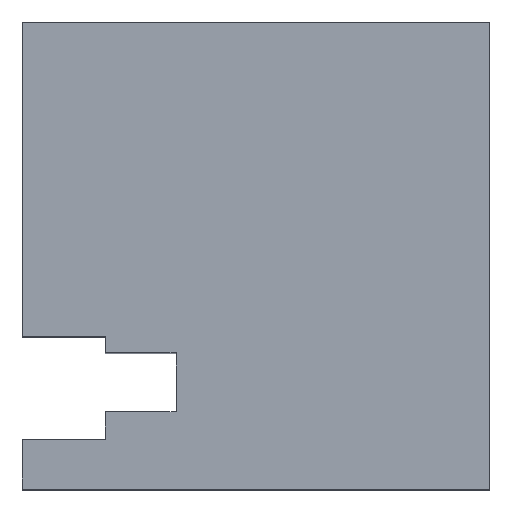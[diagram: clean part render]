
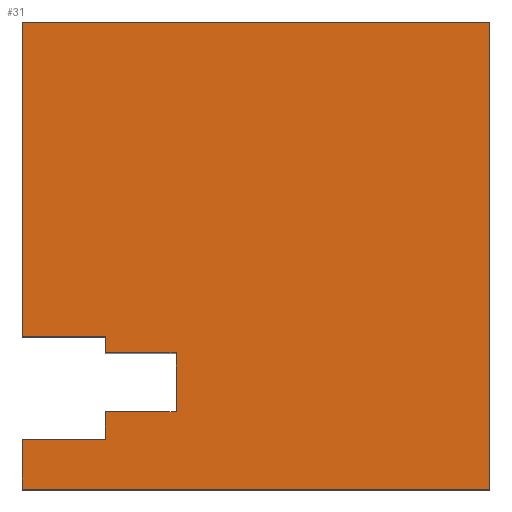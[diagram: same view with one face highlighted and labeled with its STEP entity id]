
A CAD part, top view. The second image highlights one B-rep face of the part: STEP entity #31.
In plain terms, the highlighted planar face has unit normal (0, 0, 1).
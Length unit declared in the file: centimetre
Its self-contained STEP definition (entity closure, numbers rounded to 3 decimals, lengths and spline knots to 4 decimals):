
#16 = EDGE_CURVE ( 'NONE', #490, #727, #268, .T. ) ;
#24 = DIRECTION ( 'NONE',  ( -1., 0., 0. ) ) ;
#28 = EDGE_CURVE ( 'NONE', #727, #1300, #873, .T. ) ;
#31 = ADVANCED_FACE ( 'NONE', ( #1323 ), #1114, .T. ) ;
#37 = CARTESIAN_POINT ( 'NONE',  ( 0., 327.4516, 1000. ) ) ;
#48 = EDGE_CURVE ( 'NONE', #1080, #490, #984, .T. ) ;
#49 = ORIENTED_EDGE ( 'NONE', *, *, #757, .F. ) ;
#51 = ORIENTED_EDGE ( 'NONE', *, *, #1046, .T. ) ;
#54 = ORIENTED_EDGE ( 'NONE', *, *, #16, .F. ) ;
#59 = EDGE_CURVE ( 'NONE', #668, #637, #329, .T. ) ;
#64 = EDGE_CURVE ( 'NONE', #1300, #1029, #636, .T. ) ;
#85 = VECTOR ( 'NONE', #698, 100. ) ;
#96 = ORIENTED_EDGE ( 'NONE', *, *, #59, .T. ) ;
#103 = ORIENTED_EDGE ( 'NONE', *, *, #1238, .T. ) ;
#120 = VECTOR ( 'NONE', #428, 100. ) ;
#133 = CARTESIAN_POINT ( 'NONE',  ( 0., 106.7798, 1000. ) ) ;
#155 = VECTOR ( 'NONE', #1413, 100. ) ;
#168 = EDGE_CURVE ( 'NONE', #637, #297, #1142, .T. ) ;
#182 = DIRECTION ( 'NONE',  ( 0., 1., 0. ) ) ;
#186 = VECTOR ( 'NONE', #1439, 100. ) ;
#200 = LINE ( 'NONE', #644, #186 ) ;
#204 = CARTESIAN_POINT ( 'NONE',  ( 177.7232, 291.9087, 1000. ) ) ;
#210 = DIRECTION ( 'NONE',  ( 0., 0., 1. ) ) ;
#218 = ORIENTED_EDGE ( 'NONE', *, *, #707, .F. ) ;
#229 = CARTESIAN_POINT ( 'NONE',  ( 0., 106.7798, 1000. ) ) ;
#251 = LINE ( 'NONE', #1038, #85 ) ;
#268 = LINE ( 'NONE', #509, #120 ) ;
#291 = VECTOR ( 'NONE', #384, 100. ) ;
#297 = VERTEX_POINT ( 'NONE', #1067 ) ;
#319 = ORIENTED_EDGE ( 'NONE', *, *, #520, .T. ) ;
#320 = CARTESIAN_POINT ( 'NONE',  ( 1000., 0., 1000. ) ) ;
#329 = LINE ( 'NONE', #1447, #1432 ) ;
#357 = CARTESIAN_POINT ( 'NONE',  ( 0., 1000., 1000. ) ) ;
#366 = CARTESIAN_POINT ( 'NONE',  ( 177.7232, 106.7798, 1000. ) ) ;
#384 = DIRECTION ( 'NONE',  ( 0., -1., 0. ) ) ;
#393 = VECTOR ( 'NONE', #539, 100. ) ;
#409 = ORIENTED_EDGE ( 'NONE', *, *, #64, .F. ) ;
#414 = DIRECTION ( 'NONE',  ( 1., 0., 0. ) ) ;
#428 = DIRECTION ( 'NONE',  ( 0., 1., 0. ) ) ;
#445 = CARTESIAN_POINT ( 'NONE',  ( 0., 0., 1000. ) ) ;
#456 = LINE ( 'NONE', #37, #903 ) ;
#471 = DIRECTION ( 'NONE',  ( 0., -1., 0. ) ) ;
#490 = VERTEX_POINT ( 'NONE', #1313 ) ;
#494 = LINE ( 'NONE', #937, #291 ) ;
#509 = CARTESIAN_POINT ( 'NONE',  ( 328.8597, 165.9159, 1000. ) ) ;
#518 = CARTESIAN_POINT ( 'NONE',  ( 328.8597, 291.9087, 1000. ) ) ;
#520 = EDGE_CURVE ( 'NONE', #850, #863, #200, .T. ) ;
#539 = DIRECTION ( 'NONE',  ( -1., 0., 0. ) ) ;
#547 = DIRECTION ( 'NONE',  ( 1., 0., 0. ) ) ;
#589 = ORIENTED_EDGE ( 'NONE', *, *, #48, .F. ) ;
#636 = LINE ( 'NONE', #1084, #1003 ) ;
#637 = VERTEX_POINT ( 'NONE', #911 ) ;
#640 = ORIENTED_EDGE ( 'NONE', *, *, #1429, .F. ) ;
#644 = CARTESIAN_POINT ( 'NONE',  ( 0., 0., 1000. ) ) ;
#662 = ORIENTED_EDGE ( 'NONE', *, *, #168, .T. ) ;
#668 = VERTEX_POINT ( 'NONE', #1364 ) ;
#698 = DIRECTION ( 'NONE',  ( 0., 1., 0. ) ) ;
#707 = EDGE_CURVE ( 'NONE', #1095, #1049, #1240, .T. ) ;
#727 = VERTEX_POINT ( 'NONE', #518 ) ;
#757 = EDGE_CURVE ( 'NONE', #1049, #1080, #1088, .T. ) ;
#759 = DIRECTION ( 'NONE',  ( 0., 1., 0. ) ) ;
#767 = CARTESIAN_POINT ( 'NONE',  ( 0., 0., 1000. ) ) ;
#850 = VERTEX_POINT ( 'NONE', #445 ) ;
#863 = VERTEX_POINT ( 'NONE', #320 ) ;
#873 = LINE ( 'NONE', #1218, #393 ) ;
#883 = DIRECTION ( 'NONE',  ( -1., 0., 0. ) ) ;
#903 = VECTOR ( 'NONE', #24, 100. ) ;
#911 = CARTESIAN_POINT ( 'NONE',  ( 0., 1000., 1000. ) ) ;
#937 = CARTESIAN_POINT ( 'NONE',  ( 0., 1000., 1000. ) ) ;
#970 = VECTOR ( 'NONE', #182, 100. ) ;
#984 = LINE ( 'NONE', #1440, #1408 ) ;
#1003 = VECTOR ( 'NONE', #759, 100. ) ;
#1029 = VERTEX_POINT ( 'NONE', #1250 ) ;
#1038 = CARTESIAN_POINT ( 'NONE',  ( 1000., 1000., 1000. ) ) ;
#1046 = EDGE_CURVE ( 'NONE', #863, #668, #251, .T. ) ;
#1049 = VERTEX_POINT ( 'NONE', #366 ) ;
#1067 = CARTESIAN_POINT ( 'NONE',  ( 0., 327.4516, 1000. ) ) ;
#1079 = ORIENTED_EDGE ( 'NONE', *, *, #28, .F. ) ;
#1080 = VERTEX_POINT ( 'NONE', #1275 ) ;
#1084 = CARTESIAN_POINT ( 'NONE',  ( 177.7232, 106.7798, 1000. ) ) ;
#1088 = LINE ( 'NONE', #1189, #970 ) ;
#1095 = VERTEX_POINT ( 'NONE', #133 ) ;
#1114 = PLANE ( 'NONE',  #1193 ) ;
#1127 = VECTOR ( 'NONE', #471, 100. ) ;
#1142 = LINE ( 'NONE', #357, #1127 ) ;
#1189 = CARTESIAN_POINT ( 'NONE',  ( 177.7232, 106.7798, 1000. ) ) ;
#1193 = AXIS2_PLACEMENT_3D ( 'NONE', #767, #210, #414 ) ;
#1218 = CARTESIAN_POINT ( 'NONE',  ( 172.5147, 291.9087, 1000. ) ) ;
#1238 = EDGE_CURVE ( 'NONE', #1095, #850, #494, .T. ) ;
#1240 = LINE ( 'NONE', #229, #155 ) ;
#1250 = CARTESIAN_POINT ( 'NONE',  ( 177.7232, 327.4516, 1000. ) ) ;
#1275 = CARTESIAN_POINT ( 'NONE',  ( 177.7232, 165.9159, 1000. ) ) ;
#1300 = VERTEX_POINT ( 'NONE', #204 ) ;
#1313 = CARTESIAN_POINT ( 'NONE',  ( 328.8597, 165.9159, 1000. ) ) ;
#1323 = FACE_OUTER_BOUND ( 'NONE', #1397, .T. ) ;
#1364 = CARTESIAN_POINT ( 'NONE',  ( 1000., 1000., 1000. ) ) ;
#1397 = EDGE_LOOP ( 'NONE', ( #640, #409, #1079, #54, #589, #49, #218, #103, #319, #51, #96, #662 ) ) ;
#1408 = VECTOR ( 'NONE', #547, 100. ) ;
#1413 = DIRECTION ( 'NONE',  ( 1., 0., 0. ) ) ;
#1429 = EDGE_CURVE ( 'NONE', #1029, #297, #456, .T. ) ;
#1432 = VECTOR ( 'NONE', #883, 100. ) ;
#1439 = DIRECTION ( 'NONE',  ( 1., 0., 0. ) ) ;
#1440 = CARTESIAN_POINT ( 'NONE',  ( 172.5147, 165.9159, 1000. ) ) ;
#1447 = CARTESIAN_POINT ( 'NONE',  ( 0., 1000., 1000. ) ) ;
